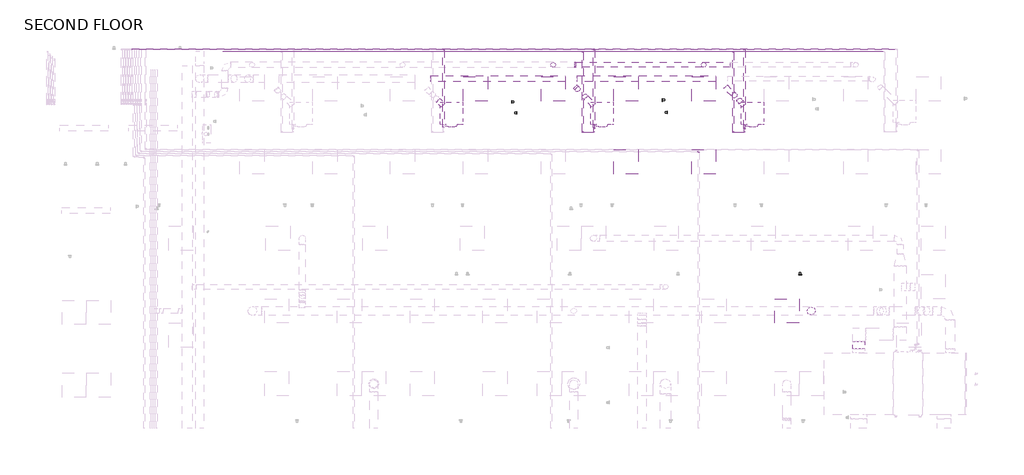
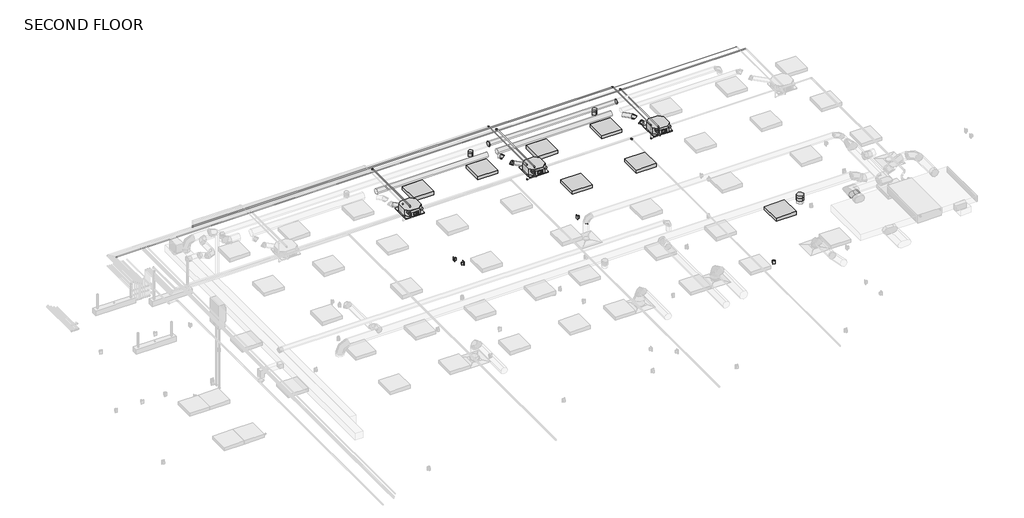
# One storey, part 11 of 12: 15 pipe fittings, 15 pipe segments, 12 duct segments, 9 duct fittings, 8 proxies, 7 light fixtures.
"""IFC4 building model written with IfcOpenShell, lengths in millimetres."""

from ifc_helpers import new_model, si_unit, point, frame, frame_2d, origin, place, context, project, spatial, polyline, circle_curve, trimmed, segment, composite_curve, outline, extrude, transform, mapped, element, save
from components import mechanical_equipment_2d84379e, duplex_receptacle_countertop_10251bba, round_elbow_1_d_b2a2d1fc, round_elbow_1_d_50e30291, round_elbow_1_d_d5890114, round_takeoff_standard_17dc06e3, round_takeoff_standard_a3e273fa, round_takeoff_standard_d07f2805, round_transition_angle_45_degree_f2e0231c, round_union_standard_bde99334, troffer_corner_insert_2x2_3lamp_e67c7f8f, elbow_generic_standard_c06ac706, elbow_generic_standard_a088f956

model = new_model("IFC4")

# Units and contexts
model_context = context("Model", 3, world=origin())
ifc_project = project(units=[si_unit("LENGTHUNIT", "METRE", prefix="MILLI")], contexts=[model_context])

# Site, building, storey
site = spatial("IfcSite", under=ifc_project)
building = spatial("IfcBuilding", under=site)
storey = spatial("IfcBuildingStorey", under=building, Name="SECOND FLOOR", Elevation=34544.0)

# Proxies
placement = place(None, origin())
mechanical_equipment_shape = mechanical_equipment_2d84379e(model_context)
element("IfcBuildingElementProxy", 1, Name="PLFY-P-NCMU-E_4-way_24x24 : PLFY-P12NCMU-E", ObjectType="PLFY-P-NCMU-E_4-way_24x24 : PLFY-P12NCMU-E", at=placement, inside=storey, context=model_context, shape_type="MappedRepresentation", body=[
    mapped(mechanical_equipment_shape, transform((289.0857893, 6112.4342918, 37287.2), x_axis=(-1.0, 0.0, 0.0), y_axis=(0.0, 1.0, 0.0), z_axis=(0.0, 0.0, -1.0))),
])
element("IfcBuildingElementProxy", 2, Name="PLFY-P-NCMU-E_4-way_24x24 : PLFY-P12NCMU-E", ObjectType="PLFY-P-NCMU-E_4-way_24x24 : PLFY-P12NCMU-E", at=placement, inside=storey, context=model_context, shape_type="MappedRepresentation", body=[
    mapped(mechanical_equipment_shape, transform((4070.5107893, 6112.4342918, 37287.2), x_axis=(-1.0, 0.0, 0.0), y_axis=(0.0, 1.0, 0.0), z_axis=(0.0, 0.0, -1.0))),
])
element("IfcBuildingElementProxy", 3, Name="PLFY-P-NCMU-E_4-way_24x24 : PLFY-P12NCMU-E", ObjectType="PLFY-P-NCMU-E_4-way_24x24 : PLFY-P12NCMU-E", at=placement, inside=storey, context=model_context, shape_type="MappedRepresentation", body=[
    mapped(mechanical_equipment_shape, transform((7851.9357893, 6112.4342918, 37287.2), x_axis=(-1.0, 0.0, 0.0), y_axis=(0.0, 1.0, 0.0), z_axis=(0.0, 0.0, -1.0))),
])
duplex_receptacle_countertop_shape = duplex_receptacle_countertop_10251bba(model_context)
element("IfcBuildingElementProxy", 4, Name="Duplex Receptacle : Standard", ObjectType="Duplex Receptacle : Standard", at=placement, inside=storey, context=model_context, shape_type="MappedRepresentation", body=[
    mapped(duplex_receptacle_countertop_shape, transform((1807.5295393, 6334.6426986, 35001.2), x_axis=(0.0, -1.0, 0.0), y_axis=(0.0, 0.0, 1.0), z_axis=(-1.0, 0.0, 0.0))),
])
element("IfcBuildingElementProxy", 5, Name="Duplex Receptacle : Standard", ObjectType="Duplex Receptacle : Standard", at=placement, inside=storey, context=model_context, shape_type="MappedRepresentation", body=[
    mapped(duplex_receptacle_countertop_shape, transform((1931.3545393, 6062.1200365, 35001.2), x_axis=(0.0, 1.0, 0.0), y_axis=(0.0, 0.0, 1.0), z_axis=(1.0, 0.0, 0.0))),
])
element("IfcBuildingElementProxy", 6, Name="Duplex Receptacle : Standard", ObjectType="Duplex Receptacle : Standard", at=placement, inside=storey, context=model_context, shape_type="MappedRepresentation", body=[
    mapped(duplex_receptacle_countertop_shape, transform((5588.9545393, 6381.6293645, 35001.2), x_axis=(0.0, -1.0, 0.0), y_axis=(0.0, 0.0, 1.0), z_axis=(-1.0, 0.0, 0.0))),
])
element("IfcBuildingElementProxy", 7, Name="Duplex Receptacle : Standard", ObjectType="Duplex Receptacle : Standard", at=placement, inside=storey, context=model_context, shape_type="MappedRepresentation", body=[
    mapped(duplex_receptacle_countertop_shape, transform((5712.7795393, 6074.7500523, 35001.2), x_axis=(0.0, 1.0, 0.0), y_axis=(0.0, 0.0, 1.0), z_axis=(1.0, 0.0, 0.0))),
])
element("IfcBuildingElementProxy", 8, Name="Duplex Receptacle : Standard", ObjectType="Duplex Receptacle : Standard", at=placement, inside=storey, context=model_context, shape_type="MappedRepresentation", body=[
    mapped(duplex_receptacle_countertop_shape, transform((9052.3402445, 1991.7195005, 35001.2), x_axis=(1.0, 0.0, 0.0), y_axis=(0.0, 0.0, 1.0), z_axis=(0.0, -1.0, 0.0))),
])

# Duct fittings
round_elbow_1_d_shape = round_elbow_1_d_b2a2d1fc(model_context)
element("IfcDuctFitting", 9, ObjectType="Round Elbow : 1 D", at=placement, inside=storey, context=model_context, shape_type="MappedRepresentation", body=[
    mapped(round_elbow_1_d_shape, transform((3454.0374117, 6660.2866281, 37541.2), x_axis=(0.7071067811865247, -0.7071067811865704, 0.0), y_axis=(0.0, 0.0, -1.0000000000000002), z_axis=(0.7071067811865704, 0.7071067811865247, 0.0))),
])
element("IfcDuctFitting", 10, ObjectType="Round Elbow : 1 D", at=placement, inside=storey, context=model_context, shape_type="MappedRepresentation", body=[
    mapped(round_elbow_1_d_shape, transform((3648.0880488, 6466.235991, 37381.2593852), x_axis=(0.6109224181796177, -0.610922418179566, -0.5035351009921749), y_axis=(0.3560530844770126, -0.3560530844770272, 0.8639747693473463), z_axis=(-0.7071067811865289, -0.7071067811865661, 0.0))),
])
round_elbow_1_d_2_shape = round_elbow_1_d_50e30291(model_context)
element("IfcDuctFitting", 11, ObjectType="Round Elbow : 1 D", at=placement, inside=storey, context=model_context, shape_type="MappedRepresentation", body=[
    mapped(round_elbow_1_d_2_shape, transform((7536.6080109, 6359.1410289, 37381.2593742), x_axis=(-0.7071067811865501, 0.7071067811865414, -7.194429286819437e-08), y_axis=(-5.087228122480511e-08, 5.087231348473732e-08, 0.9999999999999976), z_axis=(0.7071067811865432, 0.707106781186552, 0.0))),
])
round_elbow_1_d_3_shape = round_elbow_1_d_d5890114(model_context)
element("IfcDuctFitting", 12, ObjectType="Round Elbow : 1 D", at=placement, inside=storey, context=model_context, shape_type="MappedRepresentation", body=[
    mapped(round_elbow_1_d_3_shape, transform((7390.9344617, 6504.8145781, 37541.2), x_axis=(-0.5585398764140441, 0.5585398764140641, 0.6132425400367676), y_axis=(-0.43362795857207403, 0.43362795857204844, -0.7898946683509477), z_axis=(-0.7071067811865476, -0.7071067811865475, 0.0))),
])
round_takeoff_standard_shape = round_takeoff_standard_17dc06e3(model_context)
element("IfcDuctFitting", 13, ObjectType="Round Takeoff : Standard", at=placement, inside=storey, context=model_context, shape_type="MappedRepresentation", body=[
    mapped(round_takeoff_standard_shape, transform((6627.1795393, 7268.5695005, 37528.5), x_axis=(0.0, 0.0, -1.0), y_axis=(-1.0, 0.0, 0.0), z_axis=(0.0, 1.0, 0.0))),
])
round_takeoff_standard_2_shape = round_takeoff_standard_a3e273fa(model_context)
element("IfcDuctFitting", 14, ObjectType="Round Takeoff : Standard", at=placement, inside=storey, context=model_context, shape_type="MappedRepresentation", body=[
    mapped(round_takeoff_standard_2_shape, transform((2845.7545393, 7268.5695005, 37515.8), x_axis=(0.0, 0.0, -1.0), y_axis=(1.0, 0.0, 0.0), z_axis=(0.0, -1.0, 0.0))),
])
round_takeoff_standard_3_shape = round_takeoff_standard_d07f2805(model_context)
element("IfcDuctFitting", 15, ObjectType="Round Takeoff : Standard", at=placement, inside=storey, context=model_context, shape_type="MappedRepresentation", body=[
    mapped(round_takeoff_standard_3_shape, transform((9326.7232893, 1077.3195005, 37579.3), x_axis=(0.0, 0.0, -1.0), y_axis=(-1.0, 0.0, 0.0), z_axis=(0.0, 1.0, 0.0))),
])
round_transition_angle_45_degree_shape = round_transition_angle_45_degree_f2e0231c(model_context)
element("IfcDuctFitting", 16, ObjectType="Round Transition - Angle : 45 Degree", at=placement, inside=storey, context=model_context, shape_type="MappedRepresentation", body=[
    mapped(round_transition_angle_45_degree_shape, transform((3412.4920393, 7268.5695005, 37592.0), x_axis=(-1.0, 0.0, 0.0), y_axis=(0.0, -1.0, 0.0), z_axis=(0.0, 0.0, 1.0))),
])
round_union_standard_shape = round_union_standard_bde99334(model_context)
element("IfcDuctFitting", 17, ObjectType="Round Union : Standard", at=placement, inside=storey, context=model_context, shape_type="MappedRepresentation", body=[
    mapped(round_union_standard_shape, transform((7298.6920393, 7268.5695005, 37592.0), x_axis=(-1.0, 0.0, 0.0), y_axis=(0.0, -1.0, 0.0), z_axis=(0.0, 0.0, 1.0))),
])

# Duct segments
element("IfcDuctSegment", 18, ObjectType="Mitered Elbows / Taps", at=placement, inside=storey, context=model_context, shape_type="SweptSolid", body=[
    extrude(outline(composite_curve([segment(polyline([(37814.25, 10573.3076643), (37814.25, 10471.7076643)]), True, "CONTINUOUS"), segment(trimmed(circle_curve(frame_2d((37712.65, 10471.7076643)), 101.6), [point((37814.25, 10471.7076643))], [point((37712.65, 10370.1076643))], False, "CARTESIAN"), True, "CONTINUOUS"), segment(trimmed(circle_curve(frame_2d((37712.65, 10471.7076643)), 101.6), [point((37712.65, 10370.1076643))], [point((37611.05, 10471.7076643))], False, "CARTESIAN"), True, "CONTINUOUS"), segment(polyline([(37611.05, 10471.7076643), (37611.05, 10573.3076643)]), True, "CONTINUOUS"), segment(trimmed(circle_curve(frame_2d((37712.65, 10573.3076643)), 101.6), [point((37611.05, 10573.3076643))], [point((37712.65, 10674.9076643))], False, "CARTESIAN"), True, "CONTINUOUS"), segment(trimmed(circle_curve(frame_2d((37712.65, 10573.3076643)), 101.6), [point((37712.65, 10674.9076643))], [point((37814.25, 10573.3076643))], False, "CARTESIAN"), True, "CONTINUOUS")], self_intersect=False)), frame((0.0, 127.9945005, 0.0), z_axis=(0.0, 1.0, 0.0), x_axis=(0.0, 0.0, 1.0)), (0.0, 0.0, 1.0), 190.7662036),
])
element("IfcDuctSegment", 19, ObjectType="Taps / Short Radius", at=placement, inside=storey, context=model_context, shape_type="SweptSolid", body=[
    extrude(outline(composite_curve([segment(trimmed(circle_curve(frame_2d((0.0, 63.5)), 63.5), [point((-63.5, 63.5))], [point((0.0, 127.0))], False, "CARTESIAN"), True, "CONTINUOUS"), segment(trimmed(circle_curve(frame_2d((0.0, 63.5)), 63.5), [point((0.0, 127.0))], [point((63.5, 63.5))], False, "CARTESIAN"), True, "CONTINUOUS"), segment(trimmed(circle_curve(frame_2d((0.0, 63.5)), 63.5), [point((63.5, 63.5))], [point((0.0, 0.0))], False, "CARTESIAN"), True, "CONTINUOUS"), segment(trimmed(circle_curve(frame_2d((0.0, 63.5)), 63.5), [point((0.0, 0.0))], [point((-63.5, 63.5))], False, "CARTESIAN"), True, "CONTINUOUS")], self_intersect=False)), frame((6627.1795393, 7205.0695005, 37388.8), z_axis=(0.0, -1.1937117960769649e-12, 1.0), x_axis=(1.0, 0.0, 0.0)), (0.0, 0.0, 1.0), 38.1),
])
element("IfcDuctSegment", 20, ObjectType="Taps / Short Radius", at=placement, inside=storey, context=model_context, shape_type="SweptSolid", body=[
    extrude(outline(composite_curve([segment(trimmed(circle_curve(frame_2d((0.0, 63.5)), 63.5), [point((-63.5, 63.5))], [point((0.0, 127.0))], False, "CARTESIAN"), True, "CONTINUOUS"), segment(trimmed(circle_curve(frame_2d((0.0, 63.5)), 63.5), [point((0.0, 127.0))], [point((63.5, 63.5))], False, "CARTESIAN"), True, "CONTINUOUS"), segment(trimmed(circle_curve(frame_2d((0.0, 63.5)), 63.5), [point((63.5, 63.5))], [point((0.0, 0.0))], False, "CARTESIAN"), True, "CONTINUOUS"), segment(trimmed(circle_curve(frame_2d((0.0, 63.5)), 63.5), [point((0.0, 0.0))], [point((-63.5, 63.5))], False, "CARTESIAN"), True, "CONTINUOUS")], self_intersect=False)), frame((2845.7545393, 7205.0695005, 37388.8), z_axis=(0.0, -5.900346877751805e-12, 1.0), x_axis=(1.0, 0.0, 0.0)), (0.0, 0.0, 1.0), 25.4),
])
element("IfcDuctSegment", 21, ObjectType="Taps / Short Radius", at=placement, inside=storey, context=model_context, shape_type="SweptSolid", body=[
    extrude(outline(composite_curve([segment(trimmed(circle_curve(frame_2d((7268.5695005, 37592.0)), 63.5), [point((7332.0695005, 37592.0))], [point((7268.5695005, 37528.5))], False, "CARTESIAN"), True, "CONTINUOUS"), segment(trimmed(circle_curve(frame_2d((7268.5695005, 37592.0)), 63.5), [point((7268.5695005, 37528.5))], [point((7205.0695005, 37592.0))], False, "CARTESIAN"), True, "CONTINUOUS"), segment(trimmed(circle_curve(frame_2d((7268.5695005, 37592.0)), 63.5), [point((7205.0695005, 37592.0))], [point((7268.5695005, 37655.5))], False, "CARTESIAN"), True, "CONTINUOUS"), segment(trimmed(circle_curve(frame_2d((7268.5695005, 37592.0)), 63.5), [point((7268.5695005, 37655.5))], [point((7332.0695005, 37592.0))], False, "CARTESIAN"), True, "CONTINUOUS")], self_intersect=False)), frame((3412.4920393, 0.0, 0.0), z_axis=(1.0, 0.0, 0.0), x_axis=(0.0, 1.0, 0.0)), (0.0, 0.0, 1.0), 3879.85),
])
element("IfcDuctSegment", 22, ObjectType="Taps / Short Radius", at=placement, inside=storey, context=model_context, shape_type="SweptSolid", body=[
    extrude(outline(composite_curve([segment(trimmed(circle_curve(frame_2d((9326.7232893, 1077.3195005)), 101.6), [point((9225.1232893, 1077.3195005))], [point((9326.7232893, 1178.9195005))], False, "CARTESIAN"), True, "CONTINUOUS"), segment(trimmed(circle_curve(frame_2d((9326.7232893, 1077.3195005)), 101.6), [point((9326.7232893, 1178.9195005))], [point((9428.3232893, 1077.3195005))], False, "CARTESIAN"), True, "CONTINUOUS"), segment(trimmed(circle_curve(frame_2d((9326.7232893, 1077.3195005)), 101.6), [point((9428.3232893, 1077.3195005))], [point((9326.7232893, 975.7195005))], False, "CARTESIAN"), True, "CONTINUOUS"), segment(trimmed(circle_curve(frame_2d((9326.7232893, 1077.3195005)), 101.6), [point((9326.7232893, 975.7195005))], [point((9225.1232893, 1077.3195005))], False, "CARTESIAN"), True, "CONTINUOUS")], self_intersect=False)), frame((0.0, 0.0, 37388.8), z_axis=(0.0, 0.0, 1.0), x_axis=(1.0, 0.0, 0.0)), (0.0, 0.0, 1.0), 88.9),
])
element("IfcDuctSegment", 23, ObjectType="Taps / Short Radius", at=placement, inside=storey, context=model_context, shape_type="SweptSolid", body=[
    extrude(outline(composite_curve([segment(trimmed(circle_curve(frame_2d((6917.6422212, 37541.2)), 76.2), [point((6993.8422212, 37541.2))], [point((6917.6422212, 37465.0))], False, "CARTESIAN"), True, "CONTINUOUS"), segment(trimmed(circle_curve(frame_2d((6917.6422212, 37541.2)), 76.2), [point((6917.6422212, 37465.0))], [point((6841.4422212, 37541.2))], False, "CARTESIAN"), True, "CONTINUOUS"), segment(trimmed(circle_curve(frame_2d((6917.6422212, 37541.2)), 76.2), [point((6841.4422212, 37541.2))], [point((6917.6422212, 37617.4))], False, "CARTESIAN"), True, "CONTINUOUS"), segment(trimmed(circle_curve(frame_2d((6917.6422212, 37541.2)), 76.2), [point((6917.6422212, 37617.4))], [point((6993.8422212, 37541.2))], False, "CARTESIAN"), True, "CONTINUOUS")], self_intersect=False)), frame((-229.1431814, 0.0, 0.0), z_axis=(1.0, 0.0, 0.0), x_axis=(0.0, 1.0, 0.0)), (0.0, 0.0, 1.0), 3380.9237194),
])
element("IfcDuctSegment", 24, ObjectType="Taps / Short Radius", at=placement, inside=storey, context=model_context, shape_type="SweptSolid", body=[
    extrude(outline(composite_curve([segment(trimmed(circle_curve(frame_2d((6917.6422212, 37541.2)), 76.2), [point((6841.4422212, 37541.2))], [point((6917.6422212, 37617.4))], False, "CARTESIAN"), True, "CONTINUOUS"), segment(trimmed(circle_curve(frame_2d((6917.6422212, 37541.2)), 76.2), [point((6917.6422212, 37617.4))], [point((6993.8422212, 37541.2))], False, "CARTESIAN"), True, "CONTINUOUS"), segment(trimmed(circle_curve(frame_2d((6917.6422212, 37541.2)), 76.2), [point((6993.8422212, 37541.2))], [point((6917.6422212, 37465.0))], False, "CARTESIAN"), True, "CONTINUOUS"), segment(trimmed(circle_curve(frame_2d((6917.6422212, 37541.2)), 76.2), [point((6917.6422212, 37465.0))], [point((6841.4422212, 37541.2))], False, "CARTESIAN"), True, "CONTINUOUS")], self_intersect=False)), frame((3450.6818186, 0.0, 0.0), z_axis=(1.0, 0.0, 0.0), x_axis=(0.0, 1.0, 0.0)), (0.0, 0.0, 1.0), 3482.5237194),
])
element("IfcDuctSegment", 25, ObjectType="Taps / Short Radius", at=placement, inside=storey, context=model_context, shape_type="SweptSolid", body=[
    extrude(outline(composite_curve([segment(trimmed(circle_curve(frame_2d((0.0, 63.5)), 63.5), [point((63.5, 63.5))], [point((0.0, 0.0))], False, "CARTESIAN"), True, "CONTINUOUS"), segment(trimmed(circle_curve(frame_2d((0.0, 63.5)), 63.5), [point((0.0, 0.0))], [point((-63.5, 63.5))], False, "CARTESIAN"), True, "CONTINUOUS"), segment(trimmed(circle_curve(frame_2d((0.0, 63.5)), 63.5), [point((-63.5, 63.5))], [point((0.0, 127.0))], False, "CARTESIAN"), True, "CONTINUOUS"), segment(trimmed(circle_curve(frame_2d((0.0, 63.5)), 63.5), [point((0.0, 127.0))], [point((63.5, 63.5))], False, "CARTESIAN"), True, "CONTINUOUS")], self_intersect=False)), frame((82.1894112, 6250.7096286, 37444.7593852), z_axis=(-0.7071067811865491, 0.707106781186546, 0.0), x_axis=(0.707106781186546, 0.7071067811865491, 0.0)), (0.0, 0.0, 1.0), 172.72),
])
element("IfcDuctSegment", 26, ObjectType="Taps / Short Radius", at=placement, inside=storey, context=model_context, shape_type="SweptSolid", body=[
    extrude(outline(composite_curve([segment(trimmed(circle_curve(frame_2d((0.0, -63.5)), 63.5), [point((-63.5000001, -63.5))], [point((0.0, 0.0))], False, "CARTESIAN"), True, "CONTINUOUS"), segment(trimmed(circle_curve(frame_2d((0.0, -63.5)), 63.5), [point((0.0, 0.0))], [point((63.5, -63.5))], False, "CARTESIAN"), True, "CONTINUOUS"), segment(trimmed(circle_curve(frame_2d((0.0, -63.5)), 63.5), [point((63.5, -63.5))], [point((0.0, -127.0))], False, "CARTESIAN"), True, "CONTINUOUS"), segment(trimmed(circle_curve(frame_2d((0.0, -63.5)), 63.5), [point((0.0, -127.0))], [point((-63.5000001, -63.5))], False, "CARTESIAN"), True, "CONTINUOUS")], self_intersect=False)), frame((3429.7781018, 6684.5459381, 37477.7), z_axis=(-0.7071067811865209, 0.7071067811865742, 0.0), x_axis=(0.7071067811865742, 0.7071067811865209, 0.0)), (0.0, 0.0, 1.0), 50.621778),
])
element("IfcDuctSegment", 27, ObjectType="Taps / Short Radius", at=placement, inside=storey, context=model_context, shape_type="SweptSolid", body=[
    extrude(outline(composite_curve([segment(trimmed(circle_curve(frame_2d((0.0, -63.5)), 63.5), [point((-63.5, -63.5))], [point((0.0, 0.0))], False, "CARTESIAN"), True, "CONTINUOUS"), segment(trimmed(circle_curve(frame_2d((0.0, -63.5)), 63.5), [point((0.0, 0.0))], [point((63.5, -63.5))], False, "CARTESIAN"), True, "CONTINUOUS"), segment(trimmed(circle_curve(frame_2d((0.0, -63.5)), 63.5), [point((63.5, -63.5))], [point((0.0, -127.0))], False, "CARTESIAN"), True, "CONTINUOUS"), segment(trimmed(circle_curve(frame_2d((0.0, -63.5)), 63.5), [point((0.0, -127.0))], [point((-63.5, -63.5))], False, "CARTESIAN"), True, "CONTINUOUS")], self_intersect=False)), frame((3863.6144112, 6250.7096286, 37317.7593852), z_axis=(-0.707106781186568, 0.7071067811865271, 0.0), x_axis=(0.7071067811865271, 0.707106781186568, 0.0)), (0.0, 0.0, 1.0), 270.4924596),
])
element("IfcDuctSegment", 28, ObjectType="Taps / Short Radius", at=placement, inside=storey, context=model_context, shape_type="SweptSolid", body=[
    extrude(outline(composite_curve([segment(trimmed(circle_curve(frame_2d((0.0, 63.5)), 63.5), [point((63.5, 63.5))], [point((0.0, 0.0))], False, "CARTESIAN"), True, "CONTINUOUS"), segment(trimmed(circle_curve(frame_2d((0.0, 63.5)), 63.5), [point((0.0, 0.0))], [point((-63.5, 63.5))], False, "CARTESIAN"), True, "CONTINUOUS"), segment(trimmed(circle_curve(frame_2d((0.0, 63.5)), 63.5), [point((-63.5, 63.5))], [point((0.0, 127.0))], False, "CARTESIAN"), True, "CONTINUOUS"), segment(trimmed(circle_curve(frame_2d((0.0, 63.5)), 63.5), [point((0.0, 127.0))], [point((63.5, 63.5))], False, "CARTESIAN"), True, "CONTINUOUS")], self_intersect=False)), frame((7645.0394112, 6250.7096286, 37444.7593852), z_axis=(-0.7071067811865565, 0.7071067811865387, 0.0), x_axis=(0.7071067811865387, 0.7071067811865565, 0.0)), (0.0, 0.0, 1.0), 109.8332044),
])
element("IfcDuctSegment", 29, ObjectType="Taps / Short Radius", at=placement, inside=storey, context=model_context, shape_type="SweptSolid", body=[
    extrude(outline(composite_curve([segment(trimmed(circle_curve(frame_2d((0.0, 63.5)), 63.5), [point((63.5, 63.5))], [point((0.0, 0.0))], False, "CARTESIAN"), True, "CONTINUOUS"), segment(trimmed(circle_curve(frame_2d((0.0, 63.5)), 63.5), [point((0.0, 0.0))], [point((-63.5, 63.5))], False, "CARTESIAN"), True, "CONTINUOUS"), segment(trimmed(circle_curve(frame_2d((0.0, 63.5)), 63.5), [point((-63.5, 63.5))], [point((0.0, 127.0))], False, "CARTESIAN"), True, "CONTINUOUS"), segment(trimmed(circle_curve(frame_2d((0.0, 63.5)), 63.5), [point((0.0, 127.0))], [point((63.5, 63.5))], False, "CARTESIAN"), True, "CONTINUOUS")], self_intersect=False)), frame((7360.1668686, 6535.5821712, 37604.7), z_axis=(-0.7071067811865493, 0.7071067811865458, 0.0), x_axis=(0.7071067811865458, 0.7071067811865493, 0.0)), (0.0, 0.0, 1.0), 261.2883574),
])

# Light fixtures
troffer_corner_insert_2x2_3lamp_shape = troffer_corner_insert_2x2_3lamp_e67c7f8f(model_context)
element("IfcLightFixture", 30, ObjectType="Troffer Corner Insert : 2x2 3Lamp", at=placement, inside=storey, context=model_context, shape_type="MappedRepresentation", body=[
    mapped(troffer_corner_insert_2x2_3lamp_shape, transform((2845.7545393, 6658.9695005, 34848.8), x_axis=(1.0, 0.0, 0.0), y_axis=(0.0, 1.0, 0.0), z_axis=(0.0, 0.0, 1.0))),
])
element("IfcLightFixture", 31, ObjectType="Troffer Corner Insert : 2x2 3Lamp", at=placement, inside=storey, context=model_context, shape_type="MappedRepresentation", body=[
    mapped(troffer_corner_insert_2x2_3lamp_shape, transform((4674.5545393, 4830.1695005, 34848.8), x_axis=(1.0, 0.0, 0.0), y_axis=(0.0, 1.0, 0.0), z_axis=(0.0, 0.0, 1.0))),
])
element("IfcLightFixture", 32, ObjectType="Troffer Corner Insert : 2x2 3Lamp", at=placement, inside=storey, context=model_context, shape_type="MappedRepresentation", body=[
    mapped(troffer_corner_insert_2x2_3lamp_shape, transform((6627.1795393, 6658.9695005, 34848.8), x_axis=(1.0, 0.0, 0.0), y_axis=(0.0, 1.0, 0.0), z_axis=(0.0, 0.0, 1.0))),
])
element("IfcLightFixture", 33, ObjectType="Troffer Corner Insert : 2x2 3Lamp", at=placement, inside=storey, context=model_context, shape_type="MappedRepresentation", body=[
    mapped(troffer_corner_insert_2x2_3lamp_shape, transform((6627.1795393, 4830.1695005, 34848.8), x_axis=(1.0, 0.0, 0.0), y_axis=(0.0, 1.0, 0.0), z_axis=(0.0, 0.0, 1.0))),
])
element("IfcLightFixture", 34, ObjectType="Troffer Corner Insert : 2x2 3Lamp", at=placement, inside=storey, context=model_context, shape_type="MappedRepresentation", body=[
    mapped(troffer_corner_insert_2x2_3lamp_shape, transform((8717.1232893, 1077.3195005, 34848.8), x_axis=(1.0, 0.0, 0.0), y_axis=(0.0, 1.0, 0.0), z_axis=(0.0, 0.0, 1.0))),
])
element("IfcLightFixture", 35, ObjectType="Troffer Corner Insert : 2x2 3Lamp", at=placement, inside=storey, context=model_context, shape_type="MappedRepresentation", body=[
    mapped(troffer_corner_insert_2x2_3lamp_shape, transform((893.1295393, 6658.9695005, 34848.8), x_axis=(1.0, 0.0, 0.0), y_axis=(0.0, 1.0, 0.0), z_axis=(0.0, 0.0, 1.0))),
])
element("IfcLightFixture", 36, ObjectType="Troffer Corner Insert : 2x2 3Lamp", at=placement, inside=storey, context=model_context, shape_type="MappedRepresentation", body=[
    mapped(troffer_corner_insert_2x2_3lamp_shape, transform((4674.5545393, 6658.9695005, 34848.8), x_axis=(1.0, 0.0, 0.0), y_axis=(0.0, 1.0, 0.0), z_axis=(0.0, 0.0, 1.0))),
])

# Pipe fittings
elbow_generic_standard_shape = elbow_generic_standard_c06ac706(model_context)
element("IfcPipeFitting", 37, ObjectType="Elbow - Generic : Standard", at=placement, inside=storey, context=model_context, shape_type="MappedRepresentation", body=[
    mapped(elbow_generic_standard_shape, transform((90.6482893, 7663.8570005, 37706.3), x_axis=(0.0, 1.0, 0.0), y_axis=(-1.0, 0.0, 0.0), z_axis=(0.0, 0.0, 1.0))),
])
element("IfcPipeFitting", 38, ObjectType="Elbow - Generic : Standard", at=placement, inside=storey, context=model_context, shape_type="MappedRepresentation", body=[
    mapped(elbow_generic_standard_shape, transform((3872.0732893, 7663.8570005, 37668.2), x_axis=(0.0, 1.0, 0.0), y_axis=(-1.0, 0.0, 0.0), z_axis=(0.0, 0.0, 1.0))),
])
element("IfcPipeFitting", 39, ObjectType="Elbow - Generic : Standard", at=placement, inside=storey, context=model_context, shape_type="MappedRepresentation", body=[
    mapped(elbow_generic_standard_shape, transform((7653.4982893, 7663.8570005, 37630.1), x_axis=(0.0, 1.0, 0.0), y_axis=(-1.0, 0.0, 0.0), z_axis=(0.0, 0.0, 1.0))),
])
element("IfcPipeFitting", 40, ObjectType="Elbow - Generic : Standard", at=placement, inside=storey, context=model_context, shape_type="MappedRepresentation", body=[
    mapped(elbow_generic_standard_shape, transform((7653.4982893, 5659.1525126, 37630.1), x_axis=(0.0, 0.0, 1.0), y_axis=(0.0, 1.0, 0.0), z_axis=(-1.0, 0.0, 0.0))),
])
element("IfcPipeFitting", 41, ObjectType="Elbow - Generic : Standard", at=placement, inside=storey, context=model_context, shape_type="MappedRepresentation", body=[
    mapped(elbow_generic_standard_shape, transform((6500.4970393, 5084.8701311, 37998.4), x_axis=(0.0, 1.0, 0.0), y_axis=(-1.0, 0.0, 0.0), z_axis=(0.0, 0.0, 1.0))),
])
element("IfcPipeFitting", 42, ObjectType="Elbow - Generic : Standard", at=placement, inside=storey, context=model_context, shape_type="MappedRepresentation", body=[
    mapped(elbow_generic_standard_shape, transform((3872.0732893, 5665.0498496, 37437.2187602), x_axis=(0.0, 0.0, -1.0), y_axis=(0.0, 1.0, 0.0), z_axis=(1.0, 0.0, 0.0))),
])
element("IfcPipeFitting", 43, ObjectType="Elbow - Generic : Standard", at=placement, inside=storey, context=model_context, shape_type="MappedRepresentation", body=[
    mapped(elbow_generic_standard_shape, transform((7653.4982893, 5659.1525126, 37437.2187602), x_axis=(0.0, 0.0, -1.0), y_axis=(0.0, 1.0, 0.0), z_axis=(1.0, 0.0, 0.0))),
])
elbow_generic_standard_2_shape = elbow_generic_standard_a088f956(model_context)
element("IfcPipeFitting", 44, ObjectType="Elbow - Generic : Standard", at=placement, inside=storey, context=model_context, shape_type="MappedRepresentation", body=[
    mapped(elbow_generic_standard_2_shape, transform((3588.7045393, 5568.3570005, 37407.8499993), x_axis=(-1.0, 0.0, 0.0), y_axis=(0.0, 0.0, 1.0), z_axis=(0.0, 1.0, 0.0))),
])
element("IfcPipeFitting", 45, ObjectType="Elbow - Generic : Standard", at=placement, inside=storey, context=model_context, shape_type="MappedRepresentation", body=[
    mapped(elbow_generic_standard_2_shape, transform((3588.7045393, 5568.3570005, 37896.8), x_axis=(0.0, 0.0, 1.0), y_axis=(0.0, 1.0, 0.0), z_axis=(-1.0, 0.0, 0.0))),
])
element("IfcPipeFitting", 46, ObjectType="Elbow - Generic : Standard", at=placement, inside=storey, context=model_context, shape_type="MappedRepresentation", body=[
    mapped(elbow_generic_standard_2_shape, transform((3588.7045393, 7600.3570005, 37896.8), x_axis=(0.0, 1.0, 0.0), y_axis=(-1.0, 0.0, 0.0), z_axis=(0.0, 0.0, 1.0))),
])
element("IfcPipeFitting", 47, ObjectType="Elbow - Generic : Standard", at=placement, inside=storey, context=model_context, shape_type="MappedRepresentation", body=[
    mapped(elbow_generic_standard_2_shape, transform((7370.1295393, 5568.3570005, 37407.85), x_axis=(-1.0, 0.0, 0.0), y_axis=(0.0, 0.0, 1.0), z_axis=(0.0, 1.0, 0.0))),
])
element("IfcPipeFitting", 48, ObjectType="Elbow - Generic : Standard", at=placement, inside=storey, context=model_context, shape_type="MappedRepresentation", body=[
    mapped(elbow_generic_standard_2_shape, transform((7370.1295393, 5568.3570005, 37846.0), x_axis=(0.0, 0.0, 1.0), y_axis=(0.0, 1.0, 0.0), z_axis=(-1.0, 0.0, 0.0))),
])
element("IfcPipeFitting", 49, ObjectType="Elbow - Generic : Standard", at=placement, inside=storey, context=model_context, shape_type="MappedRepresentation", body=[
    mapped(elbow_generic_standard_2_shape, transform((7370.1295393, 7600.3570005, 37846.0), x_axis=(0.0, 1.0, 0.0), y_axis=(-1.0, 0.0, 0.0), z_axis=(0.0, 0.0, 1.0))),
])
element("IfcPipeFitting", 50, ObjectType="Elbow - Generic : Standard", at=placement, inside=storey, context=model_context, shape_type="MappedRepresentation", body=[
    mapped(elbow_generic_standard_2_shape, transform((3868.8982893, 5568.3570005, 37407.8499993), x_axis=(1.0, 0.0, 0.0), y_axis=(0.0, 0.9999999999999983, 5.7594219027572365e-08), z_axis=(0.0, -5.7594219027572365e-08, 0.9999999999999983))),
])
element("IfcPipeFitting", 51, ObjectType="Elbow - Generic : Standard", at=placement, inside=storey, context=model_context, shape_type="MappedRepresentation", body=[
    mapped(elbow_generic_standard_2_shape, transform((7650.3232893, 5568.3570005, 37407.85), x_axis=(1.0, 0.0, 0.0), y_axis=(0.0, 0.9999999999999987, 5.3754602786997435e-08), z_axis=(0.0, -5.3754602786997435e-08, 0.9999999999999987))),
])

# Pipe segments
element("IfcPipeSegment", 52, ObjectType="Copper Tubing", at=placement, inside=storey, context=model_context, shape_type="SweptSolid", body=[
    extrude(outline(composite_curve([segment(trimmed(circle_curve(frame_2d((37706.3, 90.6482893)), 14.2875), [point((37706.3, 104.9357893))], [point((37720.5875, 90.6482893))], False, "CARTESIAN"), True, "CONTINUOUS"), segment(trimmed(circle_curve(frame_2d((37706.3, 90.6482893)), 14.2875), [point((37720.5875, 90.6482893))], [point((37706.3, 76.3607893))], False, "CARTESIAN"), True, "CONTINUOUS"), segment(trimmed(circle_curve(frame_2d((37706.3, 90.6482893)), 14.2875), [point((37706.3, 76.3607893))], [point((37692.0125, 90.6482893))], False, "CARTESIAN"), True, "CONTINUOUS"), segment(trimmed(circle_curve(frame_2d((37706.3, 90.6482893)), 14.2875), [point((37692.0125, 90.6482893))], [point((37706.3, 104.9357893))], False, "CARTESIAN"), True, "CONTINUOUS")], self_intersect=False)), frame((0.0, 5704.9751647, 0.0), z_axis=(0.0, 1.0, 0.0), x_axis=(0.0, 0.0, 1.0)), (0.0, 0.0, 1.0), 1938.2443359),
])
element("IfcPipeSegment", 53, ObjectType="Copper Tubing", at=placement, inside=storey, context=model_context, shape_type="SweptSolid", body=[
    extrude(outline(composite_curve([segment(trimmed(circle_curve(frame_2d((37668.2, 3872.0732893)), 14.2875), [point((37668.2, 3886.3607893))], [point((37682.4875, 3872.0732893))], False, "CARTESIAN"), True, "CONTINUOUS"), segment(trimmed(circle_curve(frame_2d((37668.2, 3872.0732893)), 14.2875), [point((37682.4875, 3872.0732893))], [point((37668.2, 3857.7857893))], False, "CARTESIAN"), True, "CONTINUOUS"), segment(trimmed(circle_curve(frame_2d((37668.2, 3872.0732893)), 14.2875), [point((37668.2, 3857.7857893))], [point((37653.9125, 3872.0732893))], False, "CARTESIAN"), True, "CONTINUOUS"), segment(trimmed(circle_curve(frame_2d((37668.2, 3872.0732893)), 14.2875), [point((37653.9125, 3872.0732893))], [point((37668.2, 3886.3607893))], False, "CARTESIAN"), True, "CONTINUOUS")], self_intersect=False)), frame((0.0, 5685.6873496, 0.0), z_axis=(0.0, 1.0, 0.0), x_axis=(0.0, 0.0, 1.0)), (0.0, 0.0, 1.0), 1957.5321509),
])
element("IfcPipeSegment", 54, ObjectType="Copper Tubing", at=placement, inside=storey, context=model_context, shape_type="SweptSolid", body=[
    extrude(outline(composite_curve([segment(trimmed(circle_curve(frame_2d((37630.1, 7653.4982893)), 14.2875), [point((37630.1, 7667.7857893))], [point((37644.3875, 7653.4982893))], False, "CARTESIAN"), True, "CONTINUOUS"), segment(trimmed(circle_curve(frame_2d((37630.1, 7653.4982893)), 14.2875), [point((37644.3875, 7653.4982893))], [point((37630.1, 7639.2107893))], False, "CARTESIAN"), True, "CONTINUOUS"), segment(trimmed(circle_curve(frame_2d((37630.1, 7653.4982893)), 14.2875), [point((37630.1, 7639.2107893))], [point((37615.8125, 7653.4982893))], False, "CARTESIAN"), True, "CONTINUOUS"), segment(trimmed(circle_curve(frame_2d((37630.1, 7653.4982893)), 14.2875), [point((37615.8125, 7653.4982893))], [point((37630.1, 7667.7857893))], False, "CARTESIAN"), True, "CONTINUOUS")], self_intersect=False)), frame((0.0, 5679.7900126, 0.0), z_axis=(0.0, 1.0, 0.0), x_axis=(0.0, 0.0, 1.0)), (0.0, 0.0, 1.0), 1963.4294879),
])
element("IfcPipeSegment", 55, ObjectType="Copper Tubing", at=placement, inside=storey, context=model_context, shape_type="SweptSolid", body=[
    extrude(outline(composite_curve([segment(trimmed(circle_curve(frame_2d((7663.8570005, 37592.0)), 14.2875), [point((7649.5695005, 37592.0))], [point((7663.8570005, 37606.2875))], False, "CARTESIAN"), True, "CONTINUOUS"), segment(trimmed(circle_curve(frame_2d((7663.8570005, 37592.0)), 14.2875), [point((7663.8570005, 37606.2875))], [point((7678.1445005, 37592.0))], False, "CARTESIAN"), True, "CONTINUOUS"), segment(trimmed(circle_curve(frame_2d((7663.8570005, 37592.0)), 14.2875), [point((7678.1445005, 37592.0))], [point((7663.8570005, 37577.7125))], False, "CARTESIAN"), True, "CONTINUOUS"), segment(trimmed(circle_curve(frame_2d((7663.8570005, 37592.0)), 14.2875), [point((7663.8570005, 37577.7125))], [point((7649.5695005, 37592.0))], False, "CARTESIAN"), True, "CONTINUOUS")], self_intersect=False)), frame((-7730.4415543, 0.0, 0.0), z_axis=(1.0, 0.0, 0.0), x_axis=(0.0, 1.0, 0.0)), (0.0, 0.0, 1.0), 19184.4148436),
])
element("IfcPipeSegment", 56, ObjectType="Copper Tubing", at=placement, inside=storey, context=model_context, shape_type="SweptSolid", body=[
    extrude(outline(composite_curve([segment(trimmed(circle_curve(frame_2d((37896.8, 3588.7045393)), 7.9375), [point((37896.8, 3596.6420393))], [point((37904.7375, 3588.7045393))], False, "CARTESIAN"), True, "CONTINUOUS"), segment(trimmed(circle_curve(frame_2d((37896.8, 3588.7045393)), 7.9375), [point((37904.7375, 3588.7045393))], [point((37896.8, 3580.7670393))], False, "CARTESIAN"), True, "CONTINUOUS"), segment(trimmed(circle_curve(frame_2d((37896.8, 3588.7045393)), 7.9375), [point((37896.8, 3580.7670393))], [point((37888.8625, 3588.7045393))], False, "CARTESIAN"), True, "CONTINUOUS"), segment(trimmed(circle_curve(frame_2d((37896.8, 3588.7045393)), 7.9375), [point((37888.8625, 3588.7045393))], [point((37896.8, 3596.6420393))], False, "CARTESIAN"), True, "CONTINUOUS")], self_intersect=False)), frame((0.0, 5582.6445005, 0.0), z_axis=(0.0, 1.0, 0.0), x_axis=(0.0, 0.0, 1.0)), (0.0, 0.0, 1.0), 2003.425),
])
element("IfcPipeSegment", 57, ObjectType="Copper Tubing", at=placement, inside=storey, context=model_context, shape_type="SweptSolid", body=[
    extrude(outline(composite_curve([segment(trimmed(circle_curve(frame_2d((37846.0, 7370.1295393)), 7.9375), [point((37846.0, 7378.0670393))], [point((37853.9375, 7370.1295393))], False, "CARTESIAN"), True, "CONTINUOUS"), segment(trimmed(circle_curve(frame_2d((37846.0, 7370.1295393)), 7.9375), [point((37853.9375, 7370.1295393))], [point((37846.0, 7362.1920393))], False, "CARTESIAN"), True, "CONTINUOUS"), segment(trimmed(circle_curve(frame_2d((37846.0, 7370.1295393)), 7.9375), [point((37846.0, 7362.1920393))], [point((37838.0625, 7370.1295393))], False, "CARTESIAN"), True, "CONTINUOUS"), segment(trimmed(circle_curve(frame_2d((37846.0, 7370.1295393)), 7.9375), [point((37838.0625, 7370.1295393))], [point((37846.0, 7378.0670393))], False, "CARTESIAN"), True, "CONTINUOUS")], self_intersect=False)), frame((0.0, 5582.6445005, 0.0), z_axis=(0.0, 1.0, 0.0), x_axis=(0.0, 0.0, 1.0)), (0.0, 0.0, 1.0), 2003.425),
])
element("IfcPipeSegment", 58, ObjectType="Copper Tubing", at=placement, inside=storey, context=model_context, shape_type="SweptSolid", body=[
    extrude(outline(composite_curve([segment(trimmed(circle_curve(frame_2d((7370.1295393, 5568.3570005)), 7.9375), [point((7362.1920393, 5568.3570005))], [point((7370.1295393, 5576.2945005))], False, "CARTESIAN"), True, "CONTINUOUS"), segment(trimmed(circle_curve(frame_2d((7370.1295393, 5568.3570005)), 7.9375), [point((7370.1295393, 5576.2945005))], [point((7378.0670393, 5568.3570005))], False, "CARTESIAN"), True, "CONTINUOUS"), segment(trimmed(circle_curve(frame_2d((7370.1295393, 5568.3570005)), 7.9375), [point((7378.0670393, 5568.3570005))], [point((7370.1295393, 5560.4195005))], False, "CARTESIAN"), True, "CONTINUOUS"), segment(trimmed(circle_curve(frame_2d((7370.1295393, 5568.3570005)), 7.9375), [point((7370.1295393, 5560.4195005))], [point((7362.1920393, 5568.3570005))], False, "CARTESIAN"), True, "CONTINUOUS")], self_intersect=False)), frame((0.0, 0.0, 37422.1375), z_axis=(0.0, 0.0, 1.0), x_axis=(1.0, 0.0, 0.0)), (0.0, 0.0, 1.0), 409.575),
])
element("IfcPipeSegment", 59, ObjectType="Copper Tubing", at=placement, inside=storey, context=model_context, shape_type="SweptSolid", body=[
    extrude(outline(composite_curve([segment(trimmed(circle_curve(frame_2d((7600.3570005, 37846.0)), 7.9375), [point((7608.2945005, 37846.0))], [point((7600.3570005, 37838.0625))], False, "CARTESIAN"), True, "CONTINUOUS"), segment(trimmed(circle_curve(frame_2d((7600.3570005, 37846.0)), 7.9375), [point((7600.3570005, 37838.0625))], [point((7592.4195005, 37846.0))], False, "CARTESIAN"), True, "CONTINUOUS"), segment(trimmed(circle_curve(frame_2d((7600.3570005, 37846.0)), 7.9375), [point((7592.4195005, 37846.0))], [point((7600.3570005, 37853.9375))], False, "CARTESIAN"), True, "CONTINUOUS"), segment(trimmed(circle_curve(frame_2d((7600.3570005, 37846.0)), 7.9375), [point((7600.3570005, 37853.9375))], [point((7608.2945005, 37846.0))], False, "CARTESIAN"), True, "CONTINUOUS")], self_intersect=False)), frame((-5446.5517107, 0.0, 0.0), z_axis=(1.0, 0.0, 0.0), x_axis=(0.0, 1.0, 0.0)), (0.0, 0.0, 1.0), 12802.39375),
])
element("IfcPipeSegment", 60, ObjectType="Copper Tubing", at=placement, inside=storey, context=model_context, shape_type="SweptSolid", body=[
    extrude(outline(composite_curve([segment(trimmed(circle_curve(frame_2d((37407.8500102, 3868.8982893)), 7.9375), [point((37407.8500102, 3860.9607893))], [point((37399.9125102, 3868.8982893))], False, "CARTESIAN"), True, "CONTINUOUS"), segment(trimmed(circle_curve(frame_2d((37407.8500102, 3868.8982893)), 7.9375), [point((37399.9125102, 3868.8982893))], [point((37407.8500102, 3876.8357893))], False, "CARTESIAN"), True, "CONTINUOUS"), segment(trimmed(circle_curve(frame_2d((37407.8500102, 3868.8982893)), 7.9375), [point((37407.8500102, 3876.8357893))], [point((37415.7875102, 3868.8982893))], False, "CARTESIAN"), True, "CONTINUOUS"), segment(trimmed(circle_curve(frame_2d((37407.8500102, 3868.8982893)), 7.9375), [point((37415.7875102, 3868.8982893))], [point((37407.8500102, 3860.9607893))], False, "CARTESIAN"), True, "CONTINUOUS")], self_intersect=False)), frame((0.0, 5582.6445005, 0.0), z_axis=(0.0, 1.0, 0.0), x_axis=(0.0, 0.0, 1.0)), (0.0, 0.0, 1.0), 176.2125),
])
element("IfcPipeSegment", 61, ObjectType="Copper Tubing", at=placement, inside=storey, context=model_context, shape_type="SweptSolid", body=[
    extrude(outline(composite_curve([segment(trimmed(circle_curve(frame_2d((5568.3570005, 37407.8499993)), 7.9375), [point((5560.4195005, 37407.8499993))], [point((5568.3570005, 37415.7874993))], False, "CARTESIAN"), True, "CONTINUOUS"), segment(trimmed(circle_curve(frame_2d((5568.3570005, 37407.8499993)), 7.9375), [point((5568.3570005, 37415.7874993))], [point((5576.2945005, 37407.8499993))], False, "CARTESIAN"), True, "CONTINUOUS"), segment(trimmed(circle_curve(frame_2d((5568.3570005, 37407.8499993)), 7.9375), [point((5576.2945005, 37407.8499993))], [point((5568.3570005, 37399.9124993))], False, "CARTESIAN"), True, "CONTINUOUS"), segment(trimmed(circle_curve(frame_2d((5568.3570005, 37407.8499993)), 7.9375), [point((5568.3570005, 37399.9124993))], [point((5560.4195005, 37407.8499993))], False, "CARTESIAN"), True, "CONTINUOUS")], self_intersect=False)), frame((3602.9920393, 0.0, 0.0), z_axis=(1.0, 0.0, 0.0), x_axis=(0.0, 1.0, 0.0)), (0.0, 0.0, 1.0), 251.61875),
])
element("IfcPipeSegment", 62, ObjectType="Copper Tubing", at=placement, inside=storey, context=model_context, shape_type="SweptSolid", body=[
    extrude(outline(composite_curve([segment(trimmed(circle_curve(frame_2d((37407.8500102, 7650.3232893)), 7.9375), [point((37407.8500102, 7642.3857893))], [point((37399.9125102, 7650.3232893))], False, "CARTESIAN"), True, "CONTINUOUS"), segment(trimmed(circle_curve(frame_2d((37407.8500102, 7650.3232893)), 7.9375), [point((37399.9125102, 7650.3232893))], [point((37407.8500102, 7658.2607893))], False, "CARTESIAN"), True, "CONTINUOUS"), segment(trimmed(circle_curve(frame_2d((37407.8500102, 7650.3232893)), 7.9375), [point((37407.8500102, 7658.2607893))], [point((37415.7875102, 7650.3232893))], False, "CARTESIAN"), True, "CONTINUOUS"), segment(trimmed(circle_curve(frame_2d((37407.8500102, 7650.3232893)), 7.9375), [point((37415.7875102, 7650.3232893))], [point((37407.8500102, 7642.3857893))], False, "CARTESIAN"), True, "CONTINUOUS")], self_intersect=False)), frame((0.0, 5582.6445005, 0.0), z_axis=(0.0, 1.0, 0.0), x_axis=(0.0, 0.0, 1.0)), (0.0, 0.0, 1.0), 176.2125),
])
element("IfcPipeSegment", 63, ObjectType="Copper Tubing", at=placement, inside=storey, context=model_context, shape_type="SweptSolid", body=[
    extrude(outline(composite_curve([segment(trimmed(circle_curve(frame_2d((5568.3570005, 37407.85)), 7.9375), [point((5560.4195005, 37407.85))], [point((5568.3570005, 37415.7875))], False, "CARTESIAN"), True, "CONTINUOUS"), segment(trimmed(circle_curve(frame_2d((5568.3570005, 37407.85)), 7.9375), [point((5568.3570005, 37415.7875))], [point((5576.2945005, 37407.85))], False, "CARTESIAN"), True, "CONTINUOUS"), segment(trimmed(circle_curve(frame_2d((5568.3570005, 37407.85)), 7.9375), [point((5576.2945005, 37407.85))], [point((5568.3570005, 37399.9125))], False, "CARTESIAN"), True, "CONTINUOUS"), segment(trimmed(circle_curve(frame_2d((5568.3570005, 37407.85)), 7.9375), [point((5568.3570005, 37399.9125))], [point((5560.4195005, 37407.85))], False, "CARTESIAN"), True, "CONTINUOUS")], self_intersect=False)), frame((7384.4170393, 0.0, 0.0), z_axis=(1.0, 0.0, 0.0), x_axis=(0.0, 1.0, 0.0)), (0.0, 0.0, 1.0), 251.61875),
])
element("IfcPipeSegment", 64, ObjectType="Copper Tubing", at=placement, inside=storey, context=model_context, shape_type="SweptSolid", body=[
    extrude(outline(composite_curve([segment(trimmed(circle_curve(frame_2d((7600.3570005, 37795.2)), 7.9375), [point((7608.2945005, 37795.2))], [point((7600.3570005, 37787.2625))], False, "CARTESIAN"), True, "CONTINUOUS"), segment(trimmed(circle_curve(frame_2d((7600.3570005, 37795.2)), 7.9375), [point((7600.3570005, 37787.2625))], [point((7592.4195005, 37795.2))], False, "CARTESIAN"), True, "CONTINUOUS"), segment(trimmed(circle_curve(frame_2d((7600.3570005, 37795.2)), 7.9375), [point((7592.4195005, 37795.2))], [point((7600.3570005, 37803.1375))], False, "CARTESIAN"), True, "CONTINUOUS"), segment(trimmed(circle_curve(frame_2d((7600.3570005, 37795.2)), 7.9375), [point((7600.3570005, 37803.1375))], [point((7608.2945005, 37795.2))], False, "CARTESIAN"), True, "CONTINUOUS")], self_intersect=False)), frame((-5446.5517107, 0.0, 0.0), z_axis=(1.0, 0.0, 0.0), x_axis=(0.0, 1.0, 0.0)), (0.0, 0.0, 1.0), 16598.9),
])
element("IfcPipeSegment", 65, ObjectType="Copper Tubing", at=placement, inside=storey, context=model_context, shape_type="SweptSolid", body=[
    extrude(outline(composite_curve([segment(trimmed(circle_curve(frame_2d((37437.2187602, 3872.0732893)), 14.2875), [point((37437.2187602, 3857.7857893))], [point((37422.9312602, 3872.0732893))], False, "CARTESIAN"), True, "CONTINUOUS"), segment(trimmed(circle_curve(frame_2d((37437.2187602, 3872.0732893)), 14.2875), [point((37422.9312602, 3872.0732893))], [point((37437.2187602, 3886.3607893))], False, "CARTESIAN"), True, "CONTINUOUS"), segment(trimmed(circle_curve(frame_2d((37437.2187602, 3872.0732893)), 14.2875), [point((37437.2187602, 3886.3607893))], [point((37451.5062602, 3872.0732893))], False, "CARTESIAN"), True, "CONTINUOUS"), segment(trimmed(circle_curve(frame_2d((37437.2187602, 3872.0732893)), 14.2875), [point((37451.5062602, 3872.0732893))], [point((37437.2187602, 3857.7857893))], False, "CARTESIAN"), True, "CONTINUOUS")], self_intersect=False)), frame((0.0, 5685.6873496, 0.0), z_axis=(0.0, 1.0, 0.0), x_axis=(0.0, 0.0, 1.0)), (0.0, 0.0, 1.0), 73.1696509),
])
element("IfcPipeSegment", 66, ObjectType="Copper Tubing", at=placement, inside=storey, context=model_context, shape_type="SweptSolid", body=[
    extrude(outline(composite_curve([segment(trimmed(circle_curve(frame_2d((37437.2187602, 7653.4982893)), 14.2875), [point((37437.2187602, 7639.2107893))], [point((37422.9312602, 7653.4982893))], False, "CARTESIAN"), True, "CONTINUOUS"), segment(trimmed(circle_curve(frame_2d((37437.2187602, 7653.4982893)), 14.2875), [point((37422.9312602, 7653.4982893))], [point((37437.2187602, 7667.7857893))], False, "CARTESIAN"), True, "CONTINUOUS"), segment(trimmed(circle_curve(frame_2d((37437.2187602, 7653.4982893)), 14.2875), [point((37437.2187602, 7667.7857893))], [point((37451.5062602, 7653.4982893))], False, "CARTESIAN"), True, "CONTINUOUS"), segment(trimmed(circle_curve(frame_2d((37437.2187602, 7653.4982893)), 14.2875), [point((37451.5062602, 7653.4982893))], [point((37437.2187602, 7639.2107893))], False, "CARTESIAN"), True, "CONTINUOUS")], self_intersect=False)), frame((0.0, 5679.7900126, 0.0), z_axis=(0.0, 1.0, 0.0), x_axis=(0.0, 0.0, 1.0)), (0.0, 0.0, 1.0), 79.0669879),
])

save(model, "model.ifc")
